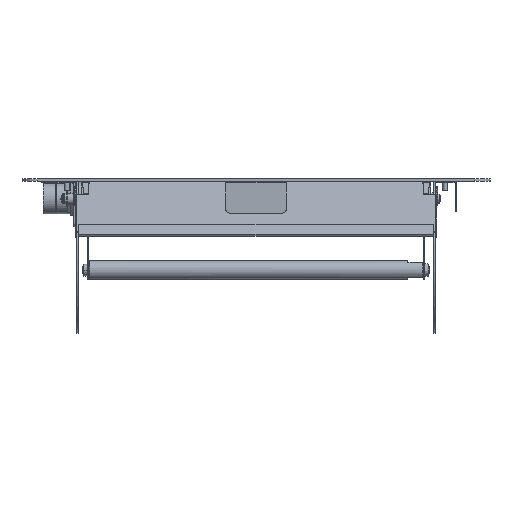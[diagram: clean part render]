
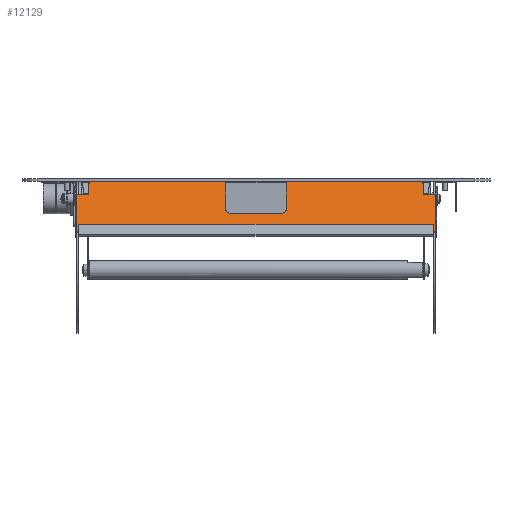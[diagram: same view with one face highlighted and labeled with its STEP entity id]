
A CAD part, front view. The second image highlights one B-rep face of the part: STEP entity #12129.
In plain terms, the highlighted planar face has unit normal (0, -0.951, 0.309) as drawn and (0, -1, 0) by its records, which use the part's own axes.
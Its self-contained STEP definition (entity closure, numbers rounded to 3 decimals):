
#276 = EDGE_CURVE ( 'NONE', #4074, #7823, #9031, .T. ) ;
#278 = EDGE_CURVE ( 'NONE', #11593, #5119, #5084, .T. ) ;
#657 = VECTOR ( 'NONE', #8903, 1000. ) ;
#739 = EDGE_CURVE ( 'NONE', #10379, #13341, #4531, .T. ) ;
#831 = EDGE_CURVE ( 'NONE', #8257, #10379, #12432, .T. ) ;
#949 = DIRECTION ( 'NONE',  ( 0., 0., 1. ) ) ;
#1483 = CARTESIAN_POINT ( 'NONE',  ( -110., 0., -21. ) ) ;
#1556 = LINE ( 'NONE', #11074, #15004 ) ;
#1684 = PLANE ( 'NONE',  #16318 ) ;
#2244 = VERTEX_POINT ( 'NONE', #21741 ) ;
#2318 = LINE ( 'NONE', #12569, #5719 ) ;
#2521 = CARTESIAN_POINT ( 'NONE',  ( 108., 0., -21. ) ) ;
#2582 = VECTOR ( 'NONE', #14072, 1000. ) ;
#2756 = EDGE_CURVE ( 'NONE', #6151, #4881, #5443, .T. ) ;
#3013 = CARTESIAN_POINT ( 'NONE',  ( -116.5, 0., 13.95 ) ) ;
#3045 = ORIENTED_EDGE ( 'NONE', *, *, #739, .F. ) ;
#3310 = CARTESIAN_POINT ( 'NONE',  ( -110., 0., 15. ) ) ;
#3360 = DIRECTION ( 'NONE',  ( 0., 0., -1. ) ) ;
#3453 = ORIENTED_EDGE ( 'NONE', *, *, #16111, .F. ) ;
#3499 = VECTOR ( 'NONE', #11068, 1000. ) ;
#3702 = ORIENTED_EDGE ( 'NONE', *, *, #11249, .F. ) ;
#3899 = CARTESIAN_POINT ( 'NONE',  ( -118., 0., 12. ) ) ;
#4074 = VERTEX_POINT ( 'NONE', #20863 ) ;
#4157 = CARTESIAN_POINT ( 'NONE',  ( -118., 0., -15. ) ) ;
#4183 = DIRECTION ( 'NONE',  ( 1., 0., 0. ) ) ;
#4211 = DIRECTION ( 'NONE',  ( 0., 0., -1. ) ) ;
#4531 = LINE ( 'NONE', #8765, #21323 ) ;
#4853 = LINE ( 'NONE', #14749, #8801 ) ;
#4881 = VERTEX_POINT ( 'NONE', #20790 ) ;
#4935 = VECTOR ( 'NONE', #13090, 1000. ) ;
#5084 = LINE ( 'NONE', #21067, #3499 ) ;
#5119 = VERTEX_POINT ( 'NONE', #19382 ) ;
#5202 = ORIENTED_EDGE ( 'NONE', *, *, #17430, .F. ) ;
#5255 = VERTEX_POINT ( 'NONE', #11331 ) ;
#5443 = LINE ( 'NONE', #3013, #4935 ) ;
#5518 = CARTESIAN_POINT ( 'NONE',  ( -110., 0., -14. ) ) ;
#5719 = VECTOR ( 'NONE', #4183, 1000. ) ;
#6151 = VERTEX_POINT ( 'NONE', #17935 ) ;
#6764 = LINE ( 'NONE', #4157, #10758 ) ;
#6964 = EDGE_CURVE ( 'NONE', #7128, #7823, #12352, .T. ) ;
#7128 = VERTEX_POINT ( 'NONE', #18020 ) ;
#7457 = DIRECTION ( 'NONE',  ( 0., 0., 1. ) ) ;
#7649 = EDGE_CURVE ( 'NONE', #5255, #11593, #2318, .T. ) ;
#7823 = VERTEX_POINT ( 'NONE', #9781 ) ;
#8257 = VERTEX_POINT ( 'NONE', #1483 ) ;
#8511 = VECTOR ( 'NONE', #19415, 1000. ) ;
#8765 = CARTESIAN_POINT ( 'NONE',  ( -118., 0., -14. ) ) ;
#8801 = VECTOR ( 'NONE', #16343, 1000. ) ;
#8853 = DIRECTION ( 'NONE',  ( -1., 0., 0. ) ) ;
#8903 = DIRECTION ( 'NONE',  ( 1., 0., 0. ) ) ;
#9031 = LINE ( 'NONE', #9358, #8511 ) ;
#9100 = LINE ( 'NONE', #3899, #657 ) ;
#9358 = CARTESIAN_POINT ( 'NONE',  ( 110., 0., 15. ) ) ;
#9417 = ORIENTED_EDGE ( 'NONE', *, *, #278, .F. ) ;
#9635 = EDGE_CURVE ( 'NONE', #8257, #2244, #20027, .T. ) ;
#9641 = ORIENTED_EDGE ( 'NONE', *, *, #831, .F. ) ;
#9737 = VECTOR ( 'NONE', #8853, 1000. ) ;
#9781 = CARTESIAN_POINT ( 'NONE',  ( 110., 0., -21. ) ) ;
#9830 = CARTESIAN_POINT ( 'NONE',  ( -118., 0., 12. ) ) ;
#10001 = DIRECTION ( 'NONE',  ( 0., -1., 0. ) ) ;
#10092 = VERTEX_POINT ( 'NONE', #9830 ) ;
#10379 = VERTEX_POINT ( 'NONE', #5518 ) ;
#10715 = CARTESIAN_POINT ( 'NONE',  ( 116.5, 0., 15. ) ) ;
#10758 = VECTOR ( 'NONE', #7457, 1000. ) ;
#11058 = EDGE_CURVE ( 'NONE', #5119, #4074, #18133, .T. ) ;
#11068 = DIRECTION ( 'NONE',  ( 0., 0., -1. ) ) ;
#11074 = CARTESIAN_POINT ( 'NONE',  ( -116.5, 0., 15. ) ) ;
#11202 = VERTEX_POINT ( 'NONE', #12603 ) ;
#11249 = EDGE_CURVE ( 'NONE', #11202, #6151, #1556, .T. ) ;
#11331 = CARTESIAN_POINT ( 'NONE',  ( 116.5, 0., 12. ) ) ;
#11415 = CARTESIAN_POINT ( 'NONE',  ( -118., 0., -14. ) ) ;
#11516 = AXIS2_PLACEMENT_3D ( 'NONE', #20036, #10001, #21690 ) ;
#11593 = VERTEX_POINT ( 'NONE', #12000 ) ;
#12000 = CARTESIAN_POINT ( 'NONE',  ( 118., 0., 12. ) ) ;
#12045 = ORIENTED_EDGE ( 'NONE', *, *, #7649, .F. ) ;
#12129 = ADVANCED_FACE ( 'NONE', ( #16500 ), #1684, .T. ) ;
#12352 = CIRCLE ( 'NONE', #13947, 2. ) ;
#12409 = ORIENTED_EDGE ( 'NONE', *, *, #9635, .T. ) ;
#12432 = LINE ( 'NONE', #3310, #16906 ) ;
#12569 = CARTESIAN_POINT ( 'NONE',  ( -118., 0., 12. ) ) ;
#12603 = CARTESIAN_POINT ( 'NONE',  ( -116.5, 0., 12. ) ) ;
#13090 = DIRECTION ( 'NONE',  ( 1., 0., 0. ) ) ;
#13341 = VERTEX_POINT ( 'NONE', #11415 ) ;
#13438 = DIRECTION ( 'NONE',  ( 0., -1., 0. ) ) ;
#13947 = AXIS2_PLACEMENT_3D ( 'NONE', #2521, #14297, #4211 ) ;
#14072 = DIRECTION ( 'NONE',  ( 0., 0., -1. ) ) ;
#14297 = DIRECTION ( 'NONE',  ( 0., -1., 0. ) ) ;
#14749 = CARTESIAN_POINT ( 'NONE',  ( 110., 0., -23. ) ) ;
#15004 = VECTOR ( 'NONE', #949, 1000. ) ;
#15109 = DIRECTION ( 'NONE',  ( 0., 0., 1. ) ) ;
#15495 = LINE ( 'NONE', #10715, #2582 ) ;
#16111 = EDGE_CURVE ( 'NONE', #4881, #5255, #15495, .T. ) ;
#16155 = ORIENTED_EDGE ( 'NONE', *, *, #18088, .F. ) ;
#16318 = AXIS2_PLACEMENT_3D ( 'NONE', #20123, #13438, #3360 ) ;
#16343 = DIRECTION ( 'NONE',  ( -1., 0., 0. ) ) ;
#16371 = EDGE_CURVE ( 'NONE', #13341, #10092, #6764, .T. ) ;
#16500 = FACE_OUTER_BOUND ( 'NONE', #20565, .T. ) ;
#16906 = VECTOR ( 'NONE', #15109, 1000. ) ;
#17430 = EDGE_CURVE ( 'NONE', #10092, #11202, #9100, .T. ) ;
#17935 = CARTESIAN_POINT ( 'NONE',  ( -116.5, 0., 13.95 ) ) ;
#18020 = CARTESIAN_POINT ( 'NONE',  ( 108., 0., -23. ) ) ;
#18088 = EDGE_CURVE ( 'NONE', #7128, #2244, #4853, .T. ) ;
#18104 = ORIENTED_EDGE ( 'NONE', *, *, #6964, .T. ) ;
#18133 = LINE ( 'NONE', #18906, #9737 ) ;
#18205 = ORIENTED_EDGE ( 'NONE', *, *, #2756, .F. ) ;
#18830 = DIRECTION ( 'NONE',  ( -1., 0., 0. ) ) ;
#18906 = CARTESIAN_POINT ( 'NONE',  ( -118., 0., -14. ) ) ;
#19382 = CARTESIAN_POINT ( 'NONE',  ( 118., 0., -14. ) ) ;
#19403 = ORIENTED_EDGE ( 'NONE', *, *, #11058, .F. ) ;
#19415 = DIRECTION ( 'NONE',  ( 0., 0., -1. ) ) ;
#20027 = CIRCLE ( 'NONE', #11516, 2. ) ;
#20036 = CARTESIAN_POINT ( 'NONE',  ( -108., 0., -21. ) ) ;
#20123 = CARTESIAN_POINT ( 'NONE',  ( -118., 0., 15. ) ) ;
#20565 = EDGE_LOOP ( 'NONE', ( #9641, #12409, #16155, #18104, #21617, #19403, #9417, #12045, #3453, #18205, #3702, #5202, #20893, #3045 ) ) ;
#20790 = CARTESIAN_POINT ( 'NONE',  ( 116.5, 0., 13.95 ) ) ;
#20863 = CARTESIAN_POINT ( 'NONE',  ( 110., 0., -14. ) ) ;
#20893 = ORIENTED_EDGE ( 'NONE', *, *, #16371, .F. ) ;
#21067 = CARTESIAN_POINT ( 'NONE',  ( 118., 0., -15. ) ) ;
#21323 = VECTOR ( 'NONE', #18830, 1000. ) ;
#21617 = ORIENTED_EDGE ( 'NONE', *, *, #276, .F. ) ;
#21690 = DIRECTION ( 'NONE',  ( 0., 0., -1. ) ) ;
#21741 = CARTESIAN_POINT ( 'NONE',  ( -108., 0., -23. ) ) ;
